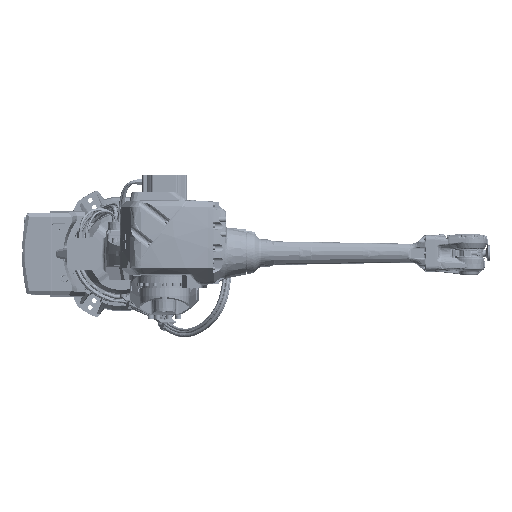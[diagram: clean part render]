
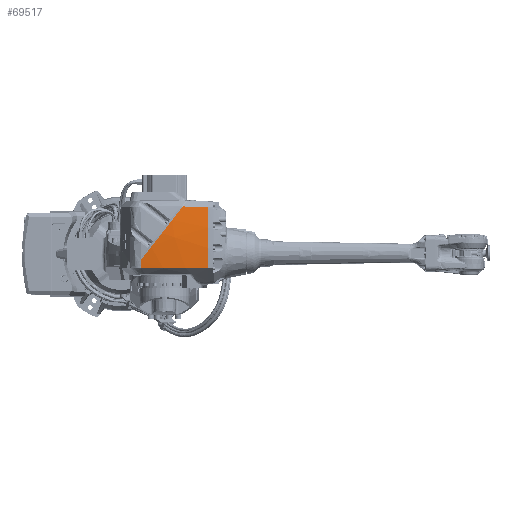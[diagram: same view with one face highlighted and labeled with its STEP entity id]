
A CAD part, top view. The second image highlights one B-rep face of the part: STEP entity #69517.
In plain terms, the highlighted free-form (B-spline) face has degree [2, 2] with [3, 3] control points.
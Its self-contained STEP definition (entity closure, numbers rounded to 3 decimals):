
#818=(
BOUNDED_SURFACE()
B_SPLINE_SURFACE(2,2,((#162486,#162487,#162488),(#162489,#162490,#162491),
(#162492,#162493,#162494)),.UNSPECIFIED.,.F.,.F.,.F.)
B_SPLINE_SURFACE_WITH_KNOTS((3,3),(3,3),(-0.064,0.118),
(1.413,1.623),.UNSPECIFIED.)
GEOMETRIC_REPRESENTATION_ITEM()
RATIONAL_B_SPLINE_SURFACE(((1.,0.994,1.),(0.996,
0.99,0.996),(1.,0.994,1.)))
REPRESENTATION_ITEM('')
SURFACE()
);
#10489=B_SPLINE_CURVE_WITH_KNOTS('',3,(#162497,#162498,#162499,#162500),
 .UNSPECIFIED.,.F.,.F.,(4,4),(0.013,0.346),
 .UNSPECIFIED.);
#12123=ELLIPSE('',#76148,1260.608,1224.897);
#18919=FACE_OUTER_BOUND('',#23990,.T.);
#23990=EDGE_LOOP('',(#60157,#60158,#60159,#60160,#60161,#60162));
#27558=CIRCLE('',#76145,74.395);
#27559=CIRCLE('',#76146,1188.691);
#27576=CIRCLE('',#76214,1497.995);
#27577=CIRCLE('',#76215,1189.639);
#33445=VERTEX_POINT('',#161955);
#33446=VERTEX_POINT('',#161963);
#33447=VERTEX_POINT('',#161981);
#33448=VERTEX_POINT('',#161990);
#33510=VERTEX_POINT('',#162480);
#33511=VERTEX_POINT('',#162495);
#42562=EDGE_CURVE('',#33445,#33446,#27558,.T.);
#42563=EDGE_CURVE('',#33447,#33445,#27559,.T.);
#42565=EDGE_CURVE('',#33447,#33448,#12123,.T.);
#42667=EDGE_CURVE('',#33510,#33446,#27576,.T.);
#42668=EDGE_CURVE('',#33511,#33510,#27577,.T.);
#42669=EDGE_CURVE('',#33511,#33448,#10489,.T.);
#60157=ORIENTED_EDGE('',*,*,#42565,.F.);
#60158=ORIENTED_EDGE('',*,*,#42563,.T.);
#60159=ORIENTED_EDGE('',*,*,#42562,.T.);
#60160=ORIENTED_EDGE('',*,*,#42667,.F.);
#60161=ORIENTED_EDGE('',*,*,#42668,.F.);
#60162=ORIENTED_EDGE('',*,*,#42669,.T.);
#69517=ADVANCED_FACE('',(#18919),#818,.F.);
#76145=AXIS2_PLACEMENT_3D('',#161968,#91643,#91644);
#76146=AXIS2_PLACEMENT_3D('',#161982,#91645,#91646);
#76148=AXIS2_PLACEMENT_3D('',#161991,#91649,#91650);
#76214=AXIS2_PLACEMENT_3D('',#162485,#91820,#91821);
#76215=AXIS2_PLACEMENT_3D('',#162496,#91822,#91823);
#91643=DIRECTION('center_axis',(-0.064,-0.002,
0.998));
#91644=DIRECTION('ref_axis',(0.,-1.,-0.002));
#91645=DIRECTION('center_axis',(0.998,0.,-0.069));
#91646=DIRECTION('ref_axis',(0.069,-0.052,0.996));
#91649=DIRECTION('center_axis',(-0.788,0.616,0.));
#91650=DIRECTION('ref_axis',(0.615,0.788,0.024));
#91820=DIRECTION('center_axis',(0.,-1.,
0.));
#91821=DIRECTION('ref_axis',(-0.064,0.,0.998));
#91822=DIRECTION('center_axis',(1.,0.,0.));
#91823=DIRECTION('ref_axis',(0.,1.,0.));
#161955=CARTESIAN_POINT('',(78.731,-61.685,1917.317));
#161963=CARTESIAN_POINT('',(79.515,-61.689,1917.367));
#161968=CARTESIAN_POINT('Origin',(79.506,12.706,1917.501));
#161981=CARTESIAN_POINT('',(78.816,-28.902,1918.564));
#161982=CARTESIAN_POINT('Origin',(-3.26,-0.005,
733.062));
#161990=CARTESIAN_POINT('',(248.86,188.744,1905.22));
#161991=CARTESIAN_POINT('Origin',(124.46,29.519,695.867));
#162480=CARTESIAN_POINT('',(351.,-61.69,1910.038));
#162485=CARTESIAN_POINT('Origin',(175.,-62.039,422.418));
#162486=CARTESIAN_POINT('Ctrl Pts',(78.731,188.543,1903.964));
#162487=CARTESIAN_POINT('Ctrl Pts',(78.731,63.941,1923.84));
#162488=CARTESIAN_POINT('Ctrl Pts',(78.731,-62.067,
1917.297));
#162489=CARTESIAN_POINT('Ctrl Pts',(215.197,189.926,1912.631));
#162490=CARTESIAN_POINT('Ctrl Pts',(215.197,64.41,1932.653));
#162491=CARTESIAN_POINT('Ctrl Pts',(215.197,-62.522,1926.062));
#162492=CARTESIAN_POINT('Ctrl Pts',(351.,187.398,1896.786));
#162493=CARTESIAN_POINT('Ctrl Pts',(351.,63.552,1916.542));
#162494=CARTESIAN_POINT('Ctrl Pts',(351.,-61.69,
1910.038));
#162495=CARTESIAN_POINT('',(351.,185.805,1897.04));
#162496=CARTESIAN_POINT('Origin',(351.,0.,722.));
#162497=CARTESIAN_POINT('Ctrl Pts',(351.,185.805,1897.04));
#162498=CARTESIAN_POINT('Ctrl Pts',(317.233,187.178,1900.862));
#162499=CARTESIAN_POINT('Ctrl Pts',(283.161,188.161,1903.599));
#162500=CARTESIAN_POINT('Ctrl Pts',(248.86,188.744,1905.22));
